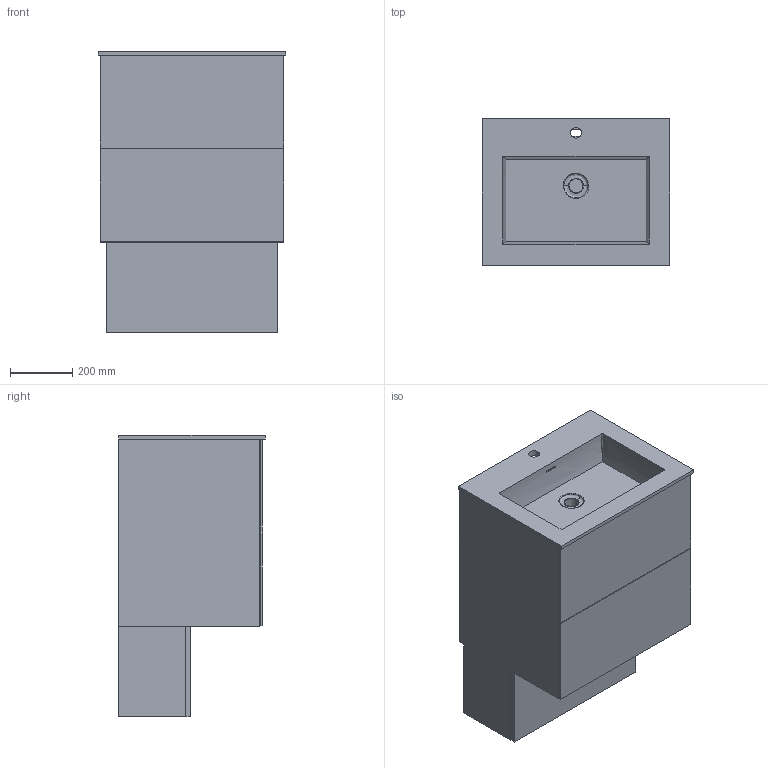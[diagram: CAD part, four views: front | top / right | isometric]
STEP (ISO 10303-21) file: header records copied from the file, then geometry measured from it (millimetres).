
FILE_DESCRIPTION (( 'STEP AP214' ), '1' );
FILE_NAME ('blanche-600-KB.STEP', '2021-03-11T08:48:51', ( '' ), ( '' ), 'SwSTEP 2.0', 'SolidWorks 2020', '' );
FILE_SCHEMA (( 'AUTOMOTIVE_DESIGN' ));
Length unit declared in the file: millimetre
Products named in the file (4): blanche-600-2; Kickboard-550x290; 78ui-2; blanche-600-KB
Assembly tree (3 placements, depth 2):
  blanche-600-KB
    78ui-2
    blanche-600-2
    Kickboard-550x290
Bounding box: 600 x 470 x 902 mm (x, y, z)
Volume: 37257104.5 mm3; surface area: 5754883.3 mm2
Topology: 34 solids, 34 shells, 440 faces, 1090 edges, 720 vertices
Faces by surface type: plane 275, cylinder 137, bspline 28
Entity records: 15840 total; most frequent: CARTESIAN_POINT 4748, ORIENTED_EDGE 2180, DIRECTION 2117, EDGE_CURVE 1090, VECTOR 769, LINE 769, VERTEX_POINT 720, AXIS2_PLACEMENT_3D 674
